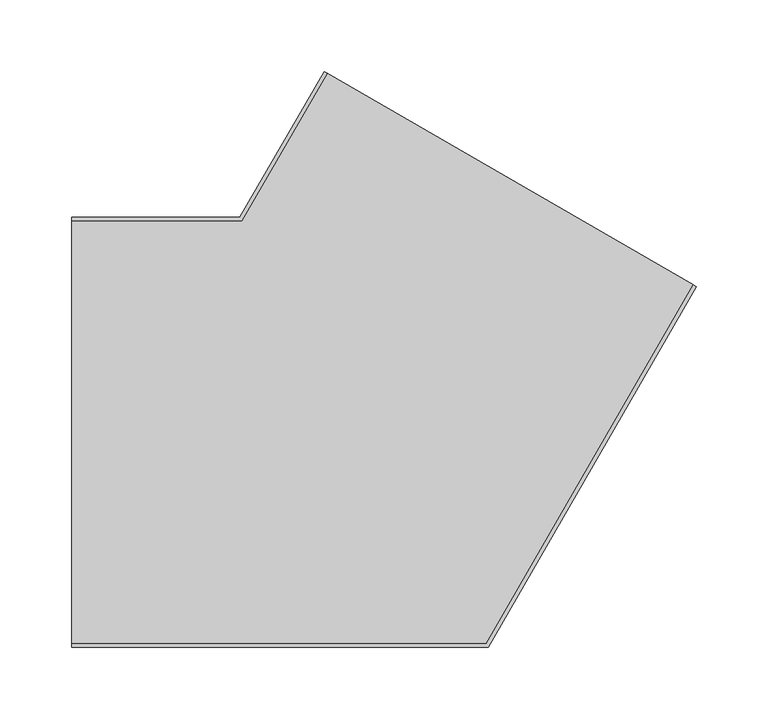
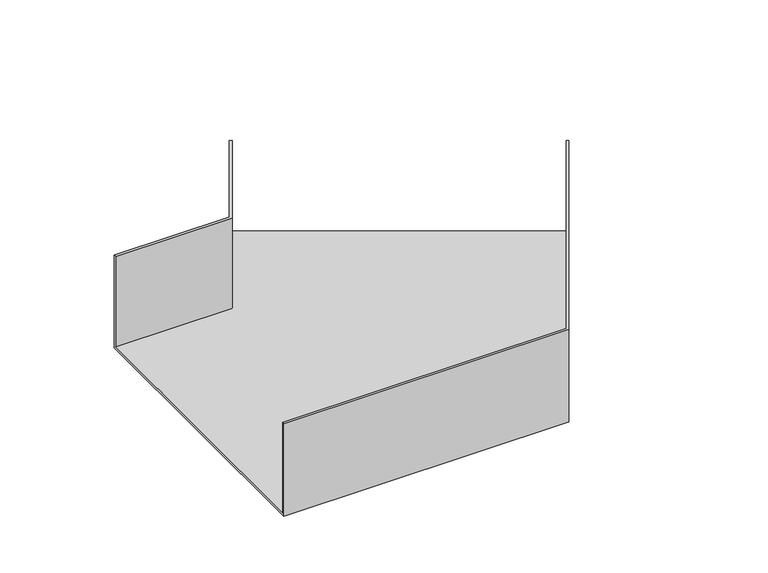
"""IFC4 building model written with IfcOpenShell, lengths in millimetres: cable carrier fitting geometry, КМ Профиль Угол горизонтальный 2x : КМ Профиль Угол горизонтальный 2x."""

import ifcopenshell
import ifcopenshell.guid

model = None  # the IFC model being written
_history = None  # IfcOwnerHistory: only IFC2X3 demands one
_inside = {}  # id of a spatial element -> (the spatial element, [elements in it])
_under = {}  # id of a project, library or spatial element -> (it, [spatial elements below it])
_declared = {}  # id of a project -> (the project, [libraries it declares])
_typed = {}  # id of a type object -> (the type object, [elements of that type])
_made_of = {}  # id of a material, layer set ... -> (it, [elements and type objects made of it])


def new_model(schema):
    """Start an empty IFC model of exactly this schema.

    Asked for "IFC4X3", IfcOpenShell would pick the latest addendum, in which some entities
    have other attributes; the version numbers below select the first issue.
    IFC2X3 requires an IfcOwnerHistory on every rooted entity: one is made here for all.
    """
    global model, _history
    if schema == "IFC4X3":
        model = ifcopenshell.file(schema_version=(4, 3, 0, 0))
    else:
        model = ifcopenshell.file(schema=schema)
    _inside.clear()
    _under.clear()
    _declared.clear()
    _typed.clear()
    _made_of.clear()
    _history = None
    if model.schema == "IFC2X3":
        org = make("IfcOrganization", Name="unknown")
        user = make(
            "IfcPersonAndOrganization",
            ThePerson=make("IfcPerson", FamilyName="unknown"),
            TheOrganization=org,
        )
        app = make(
            "IfcApplication",
            ApplicationDeveloper=org,
            Version="unknown",
            ApplicationFullName="unknown",
            ApplicationIdentifier="unknown",
        )
        _history = make(
            "IfcOwnerHistory",
            OwningUser=user,
            OwningApplication=app,
            ChangeAction="ADDED",
            CreationDate=0,
        )
    return model


def make(cls, **values):
    """One entity of the class cls with the attributes given. An attribute that is None is left unset."""
    return model.create_entity(
        cls, **{name: value for name, value in values.items() if value is not None}
    )


def rooted(cls, **values):
    """An entity with a GlobalId (a new one), such as an element, a storey or a relation."""
    return make(cls, GlobalId=ifcopenshell.guid.new(), OwnerHistory=_history, **values)


def si_unit(unit_type, name, prefix=None):
    """IfcSIUnit, for example si_unit("LENGTHUNIT", "METRE", prefix="MILLI")."""
    return make("IfcSIUnit", UnitType=unit_type, Prefix=prefix, Name=name)


def assignment(units):
    """IfcUnitAssignment: the units of a project."""
    return None if units is None else make("IfcUnitAssignment", Units=units)


def point(xyz):
    """IfcCartesianPoint."""
    return None if xyz is None else make("IfcCartesianPoint", Coordinates=xyz)


def direction(xyz):
    """IfcDirection."""
    return None if xyz is None else make("IfcDirection", DirectionRatios=xyz)


def frame(location, z_axis=None, x_axis=None):
    """IfcAxis2Placement3D, a coordinate frame: its origin and axes. An axis left out is left unset."""
    return make(
        "IfcAxis2Placement3D",
        Location=point(location),
        Axis=direction(z_axis),
        RefDirection=direction(x_axis),
    )


def origin():
    """The frame at (0, 0, 0) with its axes left unset."""
    return frame((0.0, 0.0, 0.0))


def place(relative_to, where):
    """IfcLocalPlacement: puts the frame where relative to a parent placement (None: the world)."""
    return make(
        "IfcLocalPlacement", PlacementRelTo=relative_to, RelativePlacement=where
    )


def context(
    kind, dimensions, precision=None, world=None, true_north=None, identifier=None
):
    """IfcGeometricRepresentationContext, for example the 3D "Model" context."""
    return make(
        "IfcGeometricRepresentationContext",
        ContextIdentifier=identifier,
        ContextType=kind,
        CoordinateSpaceDimension=dimensions,
        Precision=precision,
        WorldCoordinateSystem=world,
        TrueNorth=true_north,
    )


def project(units=None, contexts=None):
    """IfcProject with its units and contexts."""
    return rooted(
        "IfcProject",
        Name="project",
        RepresentationContexts=contexts,
        UnitsInContext=assignment(units),
    )


def spatial(cls, under=None, at=None, **own):
    """A site, building, storey or space (cls), placed at a placement, below another one or the project."""
    s = rooted(cls, ObjectPlacement=at, **own)
    if under is not None:
        _under.setdefault(under.id(), (under, []))[1].append(s)
    return s


def faces_of(points, faces, orient=None, outer=None):
    """IfcFace entities. A face is a list of loops; a loop is a list of indices into points, from 0.

    orient and outer hold one flag for each loop. By default every Orientation is true, the
    first loop of a face is its IfcFaceOuterBound and the others are IfcFaceBound.
    """
    made = []
    for i, loops in enumerate(faces):
        bounds = []
        for j, loop in enumerate(loops):
            is_outer = j == 0 if outer is None else outer[i][j]
            bounds.append(
                make(
                    "IfcFaceOuterBound" if is_outer else "IfcFaceBound",
                    Bound=make("IfcPolyLoop", Polygon=[points[k] for k in loop]),
                    Orientation=True if orient is None else orient[i][j],
                )
            )
        made.append(make("IfcFace", Bounds=bounds))
    return made


def faceted_brep(points, faces, orient=None, outer=None, voids=None):
    """IfcFacetedBrep: a solid bounded by flat faces; with voids (closed shells), ...WithVoids."""
    shared = [point(p) for p in points]
    hull = make("IfcClosedShell", CfsFaces=faces_of(shared, faces, orient, outer))
    if voids is None:
        return make("IfcFacetedBrep", Outer=hull)
    return make(
        "IfcFacetedBrepWithVoids",
        Outer=hull,
        Voids=[
            make(cls, CfsFaces=faces_of(shared, fs, o, b)) for cls, fs, o, b in voids
        ],
    )


def shape(context_of_items, identifier, shape_type, items):
    """IfcShapeRepresentation: the items that make up one representation, for example the "Body"."""
    return make(
        "IfcShapeRepresentation",
        ContextOfItems=context_of_items,
        RepresentationIdentifier=identifier,
        RepresentationType=shape_type,
        Items=items,
    )


def source(mapping_origin, context_of_items, identifier, shape_type, items):
    """IfcRepresentationMap: a shape defined once, which mapped items show again and again."""
    return make(
        "IfcRepresentationMap",
        MappingOrigin=mapping_origin,
        MappedRepresentation=shape(context_of_items, identifier, shape_type, items),
    )


def transform(
    local_origin,
    x_axis=None,
    y_axis=None,
    z_axis=None,
    scale=None,
    scale2=None,
    scale3=None,
    uniform=True,
):
    """IfcCartesianTransformationOperator3D, or its non-uniform kind. x_axis, y_axis, z_axis: its Axis1, 2, 3."""
    if uniform:
        return make(
            "IfcCartesianTransformationOperator3D",
            Axis1=direction(x_axis),
            Axis2=direction(y_axis),
            LocalOrigin=point(local_origin),
            Scale=scale,
            Axis3=direction(z_axis),
        )
    return make(
        "IfcCartesianTransformationOperator3DnonUniform",
        Axis1=direction(x_axis),
        Axis2=direction(y_axis),
        LocalOrigin=point(local_origin),
        Scale=scale,
        Axis3=direction(z_axis),
        Scale2=scale2,
        Scale3=scale3,
    )


def mapped(mapping_source, mapping_target):
    """IfcMappedItem: shows the shape of a source again, moved by a transform."""
    return make(
        "IfcMappedItem", MappingSource=mapping_source, MappingTarget=mapping_target
    )


def made_of(thing, what):
    """Note that an element or type object is made of a material, layer set ...; save() writes the relation."""
    if what is not None:
        _made_of.setdefault(what.id(), (what, []))[1].append(thing)
    return thing


def element(
    cls,
    number,
    at=None,
    inside=None,
    cuts=None,
    type_object=None,
    material=None,
    context=None,
    identifier="Body",
    shape_type=None,
    held_by="IfcProductDefinitionShape",
    body=None,
    shapes=None,
    **own,
):
    """One element of the class cls, such as IfcWall. Its Tag is "e" and its number.

    at: its placement. inside: the storey or other place that contains it. cuts: it is an
    opening in that element (IfcRelVoidsElement). A single representation is given by context,
    identifier, shape_type and body (its items); several are given by shapes. held_by: the class
    of the entity that holds the representations. save() writes the other relations.
    """
    e = rooted(cls, Tag="e%d" % number, ObjectPlacement=at, **own)
    if body is not None:
        shapes = [shape(context, identifier, shape_type, body)]
    if shapes is not None:
        e.Representation = make(held_by, Representations=shapes)
    if inside is not None:
        _inside.setdefault(inside.id(), (inside, []))[1].append(e)
    if cuts is not None:
        rooted(
            "IfcRelVoidsElement", RelatingBuildingElement=cuts, RelatedOpeningElement=e
        )
    if type_object is not None:
        _typed.setdefault(type_object.id(), (type_object, []))[1].append(e)
    return made_of(e, material)


def aggregate(whole, parts):
    """IfcRelAggregates: a whole, such as a stair, and the parts it consists of."""
    return rooted("IfcRelAggregates", RelatingObject=whole, RelatedObjects=parts)


def save(model, path):
    """Write the relations noted so far, then the file.

    IfcRelAggregates (storeys below a building ...), IfcRelContainedInSpatialStructure (elements
    in a storey), IfcRelDefinesByType, IfcRelAssociatesMaterial and IfcRelDeclares: one each for
    every whole, place, type object, material and project.
    """
    for whole, parts in _under.values():
        aggregate(whole, parts)
    for where, things in _inside.values():
        rooted(
            "IfcRelContainedInSpatialStructure",
            RelatedElements=things,
            RelatingStructure=where,
        )
    for kind, things in _typed.values():
        rooted("IfcRelDefinesByType", RelatedObjects=things, RelatingType=kind)
    for what, things in _made_of.values():
        rooted("IfcRelAssociatesMaterial", RelatedObjects=things, RelatingMaterial=what)
    for by, libraries in _declared.values():
        rooted("IfcRelDeclares", RelatingContext=by, RelatedDefinitions=libraries)
    model.write(path)


def cable_carrier_fitting_019c2cc3(model_context):
    return source(origin(), model_context, "Body", "Brep", [
        faceted_brep([(229.7565396, 102.95, -47.5), (-25.7209545, 250.45, -47.5), (-85.1591647, 147.5, -47.5), (-204.0355851, 147.5, -47.5), (-204.0355851, -147.5, -47.5), (85.1591647, -147.5, -47.5), (-204.0355851, -150.0, -50.0), (-204.0355851, 150.0, -50.0), (-86.6025404, 150.0, -50.0), (-27.886018, 251.7, -50.0), (231.9216031, 101.7, -50.0), (86.6025404, -150.0, -50.0), (86.6025404, -150.0, 50.0), (-204.0355851, -150.0, 50.0), (231.9216031, 101.7, 50.0), (-27.886018, 251.7, 50.0), (-25.7209545, 250.45, 50.0), (229.7565396, 102.95, 50.0), (-86.6025404, 150.0, 50.0), (-204.0355851, 150.0, 50.0), (-204.0355851, -147.5, 50.0), (-204.0355851, 147.5, 50.0), (-85.1591647, 147.5, 50.0), (85.1591647, -147.5, 50.0)], [[[0, 1, 2, 3, 4, 5]], [[6, 7, 8, 9, 10, 11]], [[6, 11, 12, 13]], [[12, 11, 10, 14]], [[14, 10, 9, 15, 16, 1, 0, 17]], [[15, 9, 8, 18]], [[18, 8, 7, 19]], [[19, 7, 6, 13, 20, 4, 3, 21]], [[19, 21, 22, 16, 15, 18]], [[21, 3, 2, 22]], [[20, 13, 12, 14, 17, 23]], [[4, 20, 23, 5]], [[16, 22, 2, 1]], [[23, 17, 0, 5]]]),
    ])


if __name__ == "__main__":
    model = new_model("IFC4")
    model_context = context("Model", 3, world=origin())
    ifc_project = project(units=[si_unit("LENGTHUNIT", "METRE", prefix="MILLI")], contexts=[model_context])
    site = spatial("IfcSite", under=ifc_project)
    building = spatial("IfcBuilding", under=site)
    placement = place(None, origin())
    cable_carrier_fitting_shape = cable_carrier_fitting_019c2cc3(model_context)
    element("IfcCableCarrierFitting", 1, ObjectType="КМ Профиль Угол горизонтальный 2x : КМ Профиль Угол горизонтальный 2x", at=placement, inside=building, context=model_context, shape_type="MappedRepresentation", body=[
        mapped(cable_carrier_fitting_shape, transform((0.0, 0.0, 0.0), x_axis=(1.0, 0.0, 0.0), y_axis=(0.0, 1.0, 0.0), z_axis=(0.0, 0.0, 1.0))),
    ])
    save(model, "model.ifc")
